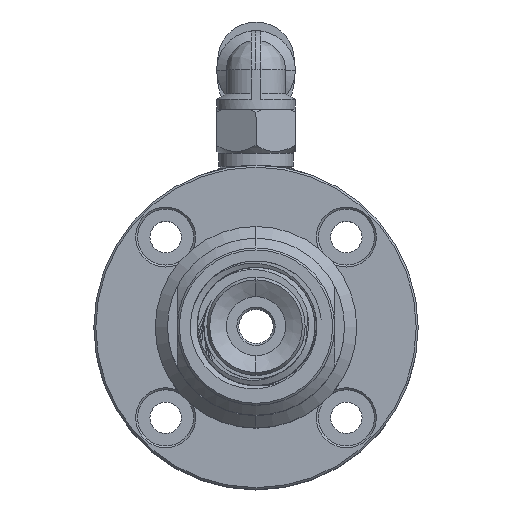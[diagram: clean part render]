
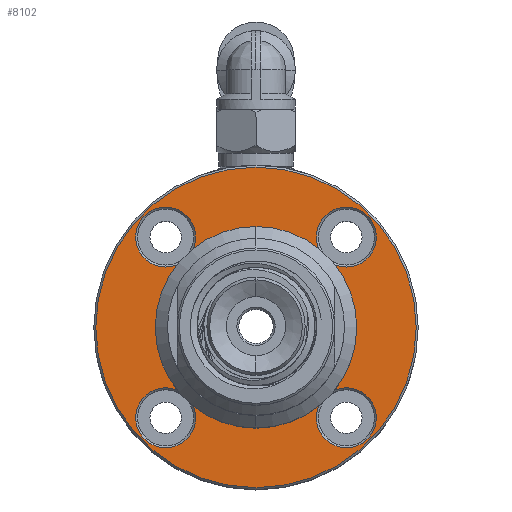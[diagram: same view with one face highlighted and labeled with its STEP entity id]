
A CAD part, top view. The second image highlights one B-rep face of the part: STEP entity #8102.
In plain terms, the highlighted planar face has unit normal (0, 0, 1).
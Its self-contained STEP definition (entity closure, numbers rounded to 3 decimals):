
#89 = ORIENTED_EDGE ( 'NONE', *, *, #2515, .F. ) ;
#123 = FACE_OUTER_BOUND ( 'NONE', #12008, .T. ) ;
#1469 = VERTEX_POINT ( 'NONE', #11473 ) ;
#1577 = CARTESIAN_POINT ( 'NONE',  ( -58.478, 33.375, 6.75 ) ) ;
#1671 = AXIS2_PLACEMENT_3D ( 'NONE', #3556, #22616, #15676 ) ;
#1863 = DIRECTION ( 'NONE',  ( -1., 0., 0. ) ) ;
#2001 = EDGE_CURVE ( 'NONE', #10067, #15470, #19817, .T. ) ;
#2515 = EDGE_CURVE ( 'NONE', #4427, #19415, #3529, .T. ) ;
#2688 = EDGE_CURVE ( 'NONE', #5702, #10454, #19880, .T. ) ;
#3388 = EDGE_CURVE ( 'NONE', #15470, #10067, #9230, .T. ) ;
#3529 = CIRCLE ( 'NONE', #10653, 9. ) ;
#3556 = CARTESIAN_POINT ( 'NONE',  ( -55.428, 33.375, 6.75 ) ) ;
#4043 = DIRECTION ( 'NONE',  ( -1., 0., 0. ) ) ;
#4055 = VERTEX_POINT ( 'NONE', #17820 ) ;
#4116 = EDGE_CURVE ( 'NONE', #10454, #5702, #8578, .T. ) ;
#4427 = VERTEX_POINT ( 'NONE', #20537 ) ;
#4471 = EDGE_LOOP ( 'NONE', ( #20563, #10726 ) ) ;
#4576 = CARTESIAN_POINT ( 'NONE',  ( -76.863, 14.99, 6.75 ) ) ;
#5075 = AXIS2_PLACEMENT_3D ( 'NONE', #8780, #12462, #17435 ) ;
#5350 = DIRECTION ( 'NONE',  ( -1., 0., 0. ) ) ;
#5479 = CIRCLE ( 'NONE', #19541, 16.3 ) ;
#5702 = VERTEX_POINT ( 'NONE', #6009 ) ;
#5823 = FACE_BOUND ( 'NONE', #10869, .T. ) ;
#5871 = DIRECTION ( 'NONE',  ( 0., 0., -1. ) ) ;
#5905 = AXIS2_PLACEMENT_3D ( 'NONE', #10606, #22586, #1863 ) ;
#6009 = CARTESIAN_POINT ( 'NONE',  ( -70.763, 14.99, 6.75 ) ) ;
#6798 = CARTESIAN_POINT ( 'NONE',  ( -76.863, 33.375, 6.75 ) ) ;
#6916 = DIRECTION ( 'NONE',  ( 0., 0., -1. ) ) ;
#7251 = DIRECTION ( 'NONE',  ( 0., 0., 1. ) ) ;
#7702 = CARTESIAN_POINT ( 'NONE',  ( -52.378, 33.375, 6.75 ) ) ;
#7765 = EDGE_CURVE ( 'NONE', #7939, #16439, #14380, .T. ) ;
#7939 = VERTEX_POINT ( 'NONE', #17133 ) ;
#8102 = ADVANCED_FACE ( 'NONE', ( #18149, #16205, #14021, #20571, #123, #5823 ), #17599, .F. ) ;
#8185 = CIRCLE ( 'NONE', #9909, 3.05 ) ;
#8578 = CIRCLE ( 'NONE', #16720, 3.05 ) ;
#8780 = CARTESIAN_POINT ( 'NONE',  ( -84.621, 24.183, 6.75 ) ) ;
#8821 = ORIENTED_EDGE ( 'NONE', *, *, #17033, .T. ) ;
#9230 = CIRCLE ( 'NONE', #1671, 3.05 ) ;
#9276 = AXIS2_PLACEMENT_3D ( 'NONE', #17385, #6916, #19135 ) ;
#9305 = ORIENTED_EDGE ( 'NONE', *, *, #13054, .T. ) ;
#9699 = EDGE_CURVE ( 'NONE', #16439, #7939, #8185, .T. ) ;
#9737 = DIRECTION ( 'NONE',  ( 0., 0., -1. ) ) ;
#9774 = CARTESIAN_POINT ( 'NONE',  ( -48.321, 24.183, 6.75 ) ) ;
#9909 = AXIS2_PLACEMENT_3D ( 'NONE', #12904, #11242, #16268 ) ;
#10067 = VERTEX_POINT ( 'NONE', #1577 ) ;
#10069 = DIRECTION ( 'NONE',  ( -1., 0., 0. ) ) ;
#10344 = ORIENTED_EDGE ( 'NONE', *, *, #2001, .T. ) ;
#10454 = VERTEX_POINT ( 'NONE', #4576 ) ;
#10581 = EDGE_CURVE ( 'NONE', #1469, #22173, #17736, .T. ) ;
#10606 = CARTESIAN_POINT ( 'NONE',  ( -64.621, 24.183, 6.75 ) ) ;
#10653 = AXIS2_PLACEMENT_3D ( 'NONE', #19478, #7251, #5350 ) ;
#10726 = ORIENTED_EDGE ( 'NONE', *, *, #4116, .T. ) ;
#10869 = EDGE_LOOP ( 'NONE', ( #14412, #89 ) ) ;
#10981 = CARTESIAN_POINT ( 'NONE',  ( -64.621, 24.183, 6.75 ) ) ;
#11242 = DIRECTION ( 'NONE',  ( 0., 0., -1. ) ) ;
#11446 = DIRECTION ( 'NONE',  ( -1., 0., 0. ) ) ;
#11473 = CARTESIAN_POINT ( 'NONE',  ( -58.478, 14.99, 6.75 ) ) ;
#11485 = CARTESIAN_POINT ( 'NONE',  ( -73.813, 33.375, 6.75 ) ) ;
#11853 = EDGE_LOOP ( 'NONE', ( #8821, #18013 ) ) ;
#12008 = EDGE_LOOP ( 'NONE', ( #9305, #12364 ) ) ;
#12133 = DIRECTION ( 'NONE',  ( 0., 0., -1. ) ) ;
#12152 = CARTESIAN_POINT ( 'NONE',  ( -64.621, 24.183, 6.75 ) ) ;
#12269 = CARTESIAN_POINT ( 'NONE',  ( -55.428, 14.99, 6.75 ) ) ;
#12364 = ORIENTED_EDGE ( 'NONE', *, *, #16011, .T. ) ;
#12462 = DIRECTION ( 'NONE',  ( 0., 0., -1. ) ) ;
#12721 = DIRECTION ( 'NONE',  ( -1., 0., 0. ) ) ;
#12904 = CARTESIAN_POINT ( 'NONE',  ( -73.813, 33.375, 6.75 ) ) ;
#13054 = EDGE_CURVE ( 'NONE', #4055, #13436, #18792, .T. ) ;
#13436 = VERTEX_POINT ( 'NONE', #9774 ) ;
#13533 = CIRCLE ( 'NONE', #21462, 9. ) ;
#14021 = FACE_BOUND ( 'NONE', #18905, .T. ) ;
#14284 = DIRECTION ( 'NONE',  ( -1., 0., 0. ) ) ;
#14380 = CIRCLE ( 'NONE', #22465, 3.05 ) ;
#14412 = ORIENTED_EDGE ( 'NONE', *, *, #20780, .F. ) ;
#15470 = VERTEX_POINT ( 'NONE', #7702 ) ;
#15676 = DIRECTION ( 'NONE',  ( -1., 0., 0. ) ) ;
#15870 = ORIENTED_EDGE ( 'NONE', *, *, #7765, .T. ) ;
#15877 = ORIENTED_EDGE ( 'NONE', *, *, #3388, .T. ) ;
#16011 = EDGE_CURVE ( 'NONE', #13436, #4055, #5479, .T. ) ;
#16057 = AXIS2_PLACEMENT_3D ( 'NONE', #12269, #12133, #4043 ) ;
#16205 = FACE_BOUND ( 'NONE', #11853, .T. ) ;
#16268 = DIRECTION ( 'NONE',  ( -1., 0., 0. ) ) ;
#16439 = VERTEX_POINT ( 'NONE', #6798 ) ;
#16571 = CARTESIAN_POINT ( 'NONE',  ( -73.813, 14.99, 6.75 ) ) ;
#16720 = AXIS2_PLACEMENT_3D ( 'NONE', #19778, #5871, #19930 ) ;
#17033 = EDGE_CURVE ( 'NONE', #22173, #1469, #20192, .T. ) ;
#17133 = CARTESIAN_POINT ( 'NONE',  ( -70.763, 33.375, 6.75 ) ) ;
#17385 = CARTESIAN_POINT ( 'NONE',  ( -55.428, 33.375, 6.75 ) ) ;
#17435 = DIRECTION ( 'NONE',  ( -1., 0., 0. ) ) ;
#17599 = PLANE ( 'NONE',  #5075 ) ;
#17736 = CIRCLE ( 'NONE', #17742, 3.05 ) ;
#17742 = AXIS2_PLACEMENT_3D ( 'NONE', #18861, #20605, #10069 ) ;
#17820 = CARTESIAN_POINT ( 'NONE',  ( -80.921, 24.183, 6.75 ) ) ;
#17939 = CARTESIAN_POINT ( 'NONE',  ( -52.378, 14.99, 6.75 ) ) ;
#18013 = ORIENTED_EDGE ( 'NONE', *, *, #10581, .T. ) ;
#18149 = FACE_BOUND ( 'NONE', #4471, .T. ) ;
#18346 = DIRECTION ( 'NONE',  ( 0., 0., -1. ) ) ;
#18792 = CIRCLE ( 'NONE', #5905, 16.3 ) ;
#18861 = CARTESIAN_POINT ( 'NONE',  ( -55.428, 14.99, 6.75 ) ) ;
#18905 = EDGE_LOOP ( 'NONE', ( #15877, #10344 ) ) ;
#19135 = DIRECTION ( 'NONE',  ( -1., 0., 0. ) ) ;
#19415 = VERTEX_POINT ( 'NONE', #21312 ) ;
#19478 = CARTESIAN_POINT ( 'NONE',  ( -64.621, 24.183, 6.75 ) ) ;
#19541 = AXIS2_PLACEMENT_3D ( 'NONE', #10981, #19821, #12721 ) ;
#19758 = AXIS2_PLACEMENT_3D ( 'NONE', #16571, #18346, #11446 ) ;
#19778 = CARTESIAN_POINT ( 'NONE',  ( -73.813, 14.99, 6.75 ) ) ;
#19817 = CIRCLE ( 'NONE', #9276, 3.05 ) ;
#19821 = DIRECTION ( 'NONE',  ( 0., 0., 1. ) ) ;
#19880 = CIRCLE ( 'NONE', #19758, 3.05 ) ;
#19930 = DIRECTION ( 'NONE',  ( -1., 0., 0. ) ) ;
#20192 = CIRCLE ( 'NONE', #16057, 3.05 ) ;
#20537 = CARTESIAN_POINT ( 'NONE',  ( -55.621, 24.183, 6.75 ) ) ;
#20563 = ORIENTED_EDGE ( 'NONE', *, *, #2688, .T. ) ;
#20571 = FACE_BOUND ( 'NONE', #22369, .T. ) ;
#20605 = DIRECTION ( 'NONE',  ( 0., 0., -1. ) ) ;
#20780 = EDGE_CURVE ( 'NONE', #19415, #4427, #13533, .T. ) ;
#21245 = DIRECTION ( 'NONE',  ( 0., 0., 1. ) ) ;
#21312 = CARTESIAN_POINT ( 'NONE',  ( -73.621, 24.183, 6.75 ) ) ;
#21378 = ORIENTED_EDGE ( 'NONE', *, *, #9699, .T. ) ;
#21462 = AXIS2_PLACEMENT_3D ( 'NONE', #12152, #21245, #14284 ) ;
#21968 = DIRECTION ( 'NONE',  ( -1., 0., 0. ) ) ;
#22173 = VERTEX_POINT ( 'NONE', #17939 ) ;
#22369 = EDGE_LOOP ( 'NONE', ( #15870, #21378 ) ) ;
#22465 = AXIS2_PLACEMENT_3D ( 'NONE', #11485, #9737, #21968 ) ;
#22586 = DIRECTION ( 'NONE',  ( 0., 0., 1. ) ) ;
#22616 = DIRECTION ( 'NONE',  ( 0., 0., -1. ) ) ;
